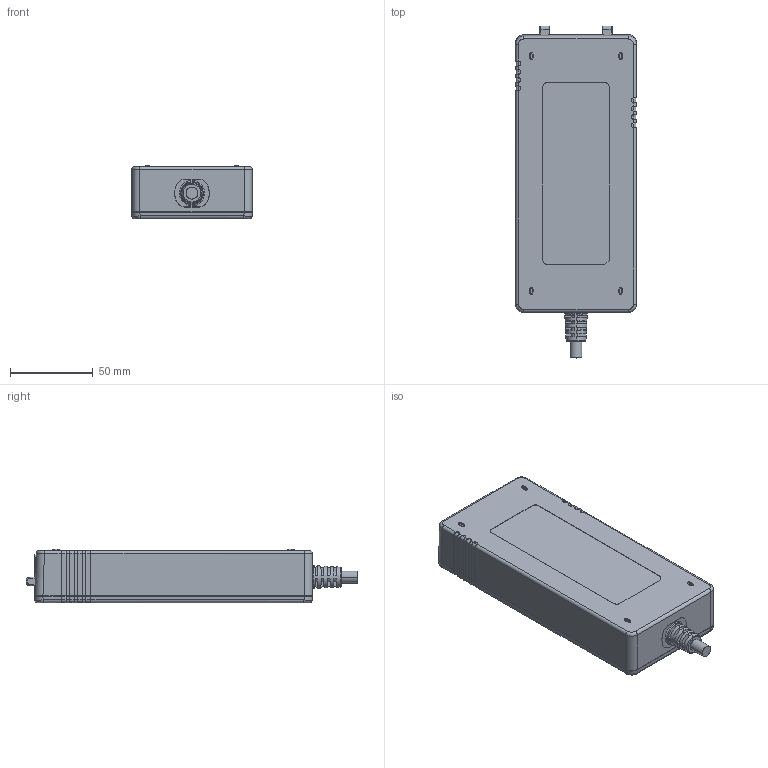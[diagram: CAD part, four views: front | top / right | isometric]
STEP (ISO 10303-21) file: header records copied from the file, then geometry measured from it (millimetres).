
FILE_DESCRIPTION (( 'STEP AP214' ), '1' );
FILE_NAME ('APM240-C6.STEP', '2025-09-02T02:33:09', ( '' ), ( '' ), 'SwSTEP 2.0', 'SolidWorks 2024', '' );
FILE_SCHEMA (( 'AUTOMOTIVE_DESIGN' ));
Length unit declared in the file: millimetre
Products named in the file (32): APM240-C6_1; CK04_1_1_1_1_1; APM240D-WK20231031_ASM_21_ASM_1_ASM; APM240-C6; ASM0001_ASM_1_ASM_1_ASM_1_ASM_1_ASM; APM240D-WK_ASM_52_ASM_3_ASM_1_2_ASM; APM240D-SRP_ASM_6_ASM_4_ASM_1_2_ASM; APM240-C6_1_1; BN95_ASM_17_ASM_1_ASM_1_ASM_1_A_ASM; SR-JD_3_1_1_1_2_1_1; BNXXX_ASM_ASM_1_ASM; APM240D-XP-A0_ASM_9_ASM_1_1_ASM; APM240D-HS3_12_8_3_1_1_1_1_1__1; APM40-PCB-A1_2_1_1_1_1_1_1_1_1; BN95_ASM_17_ASM_1_1_ASM_1_ASM_1_ASM; APM240D-HS2_17_6_2_1_1_1_1_1__1; BN95_20200401_ASM_1_1_ASM_1_ASM_ASM; BN1410123_CK02_ASM_ASM_1_ASM_1__ASM; APM240-HSMN_4_1_1_1_1_1_2_1_1_1; BN950121H_13_1_1_1_1_1_1; DB24_MQ_1_1_1_1_1_1_1; FN54_1_1_1_1_1; PIN_SZ_1_1_1_1_1_1_1_1_1_1_1; C6_ASM_ASM; LOWER_7_8_12_42_1_12_5_1_17_1_2; APM240-XP-A0_ASM_ASM_1_1_ASM; BN95_20200401_ASM_1_ASM_1_ASM_1_ASM; APM240D-WK20231016_ASM_37_ASM_2_ASM; DB23_MQ_1_1_1_1_1_1_1; 265DZ-LOWER_2_1_1_5_7_3_37_1; C6__ASM_ASM_1_ASM_1_ASM; 240D-20231114-01_1_1_1_1_1_1__1
Assembly tree (35 placements, depth 12):
  APM240-C6
    APM240-C6_1
      APM240-C6_1_1
        APM240-XP-A0_ASM_ASM_1_1_ASM
          APM240D-XP-A0_ASM_9_ASM_1_1_ASM
            APM240D-WK20231031_ASM_21_ASM_1_ASM
              APM240D-WK20231016_ASM_37_ASM_2_ASM
                APM240D-WK_ASM_52_ASM_3_ASM_1_2_ASM
                  APM240D-SRP_ASM_6_ASM_4_ASM_1_2_ASM
                    PIN_SZ_1_1_1_1_1_1_1_1_1_1_1  x2
                265DZ-LOWER_2_1_1_5_7_3_37_1
                LOWER_7_8_12_42_1_12_5_1_17_1_2
                APM240-HSMN_4_1_1_1_1_1_2_1_1_1
              APM40-PCB-A1_2_1_1_1_1_1_1_1_1
              240D-20231114-01_1_1_1_1_1_1__1
              SR-JD_3_1_1_1_2_1_1
        C6_ASM_ASM
          BNXXX_ASM_ASM_1_ASM
            C6__ASM_ASM_1_ASM_1_ASM
              BN1410123_CK02_ASM_ASM_1_ASM_1__ASM
                BN95_20200401_ASM_1_ASM_1_ASM_1_ASM
                  BN95_ASM_17_ASM_1_ASM_1_ASM_1_A_ASM
                    CK04_1_1_1_1_1  x3
                  ASM0001_ASM_1_ASM_1_ASM_1_ASM_1_ASM
Bounding box: 73 x 200.86 x 32.3 mm (x, y, z)
Volume: 46462 mm3; surface area: 170992.6 mm2
Topology: 14 solids, 22 shells, 2971 faces, 8014 edges, 5266 vertices
Faces by surface type: plane 1873, cylinder 892, cone 105, bspline 50, torus 37, sphere 14
Entity records: 94333 total; most frequent: CARTESIAN_POINT 30092, ORIENTED_EDGE 14514, DIRECTION 11209, EDGE_CURVE 7269, VERTEX_POINT 4779, AXIS2_PLACEMENT_3D 4028, VECTOR 3153, LINE 3153
